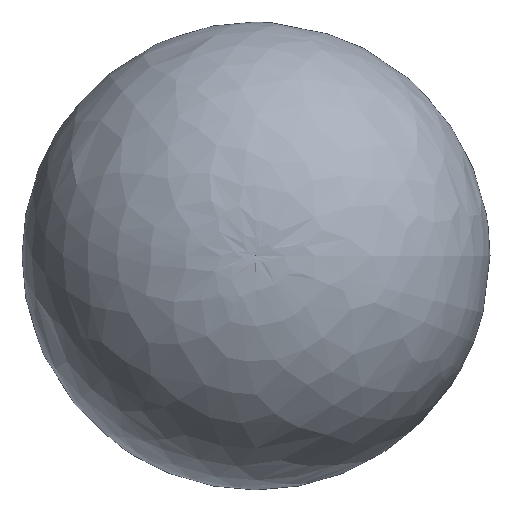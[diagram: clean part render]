
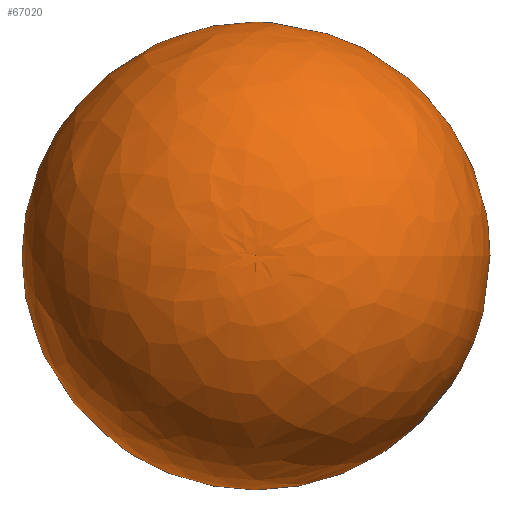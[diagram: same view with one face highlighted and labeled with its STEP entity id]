
A CAD part, top view. The second image highlights one B-rep face of the part: STEP entity #67020.
In plain terms, the highlighted free-form (B-spline) face has degree [2, 2] with [5, 9] control points.
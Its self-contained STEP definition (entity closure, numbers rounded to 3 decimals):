
#1044=(
BOUNDED_SURFACE()
B_SPLINE_SURFACE(2,2,((#193894,#193895,#193896,#193897,#193898,#193899,
#193900,#193901,#193902),(#193903,#193904,#193905,#193906,#193907,#193908,
#193909,#193910,#193911),(#193912,#193913,#193914,#193915,#193916,#193917,
#193918,#193919,#193920),(#193921,#193922,#193923,#193924,#193925,#193926,
#193927,#193928,#193929),(#193930,#193931,#193932,#193933,#193934,#193935,
#193936,#193937,#193938)),.UNSPECIFIED.,.F.,.T.,.F.)
B_SPLINE_SURFACE_WITH_KNOTS((3,2,3),(3,2,2,2,3),(-1.047,0.299,
1.645),(-3.142,-1.571,0.,1.571,
3.142),.UNSPECIFIED.)
GEOMETRIC_REPRESENTATION_ITEM()
RATIONAL_B_SPLINE_SURFACE(((1.,0.707,1.,0.707,1.,
0.707,1.,0.707,1.),(0.782,0.553,
0.782,0.553,0.782,0.553,
0.782,0.553,0.782),(1.,0.707,
1.,0.707,1.,0.707,1.,0.707,1.),(0.782,
0.553,0.782,0.553,0.782,
0.553,0.782,0.553,0.782),
(1.,0.707,1.,0.707,1.,0.707,1.,0.707,
1.)))
REPRESENTATION_ITEM('')
SURFACE()
);
#1114=(
BOUNDED_CURVE()
B_SPLINE_CURVE(2,(#193941,#193942,#193943,#193944,#193945),
 .UNSPECIFIED.,.F.,.F.)
B_SPLINE_CURVE_WITH_KNOTS((3,2,3),(-1.645,-0.299,
1.047),.UNSPECIFIED.)
CURVE()
GEOMETRIC_REPRESENTATION_ITEM()
RATIONAL_B_SPLINE_CURVE((1.,0.782,1.,0.782,1.))
REPRESENTATION_ITEM('')
);
#19146=FACE_OUTER_BOUND('',#24120,.T.);
#24120=EDGE_LOOP('',(#62525,#62526,#62527,#62528));
#27199=CIRCLE('',#74093,1357.5);
#27200=CIRCLE('',#74094,1357.5);
#33639=VERTEX_POINT('',#193939);
#33640=VERTEX_POINT('',#193940);
#33641=VERTEX_POINT('',#193946);
#43269=EDGE_CURVE('',#33639,#33640,#1114,.T.);
#43270=EDGE_CURVE('',#33640,#33641,#27199,.T.);
#43271=EDGE_CURVE('',#33641,#33640,#27200,.T.);
#62525=ORIENTED_EDGE('',*,*,#43269,.T.);
#62526=ORIENTED_EDGE('',*,*,#43270,.T.);
#62527=ORIENTED_EDGE('',*,*,#43271,.T.);
#62528=ORIENTED_EDGE('',*,*,#43269,.F.);
#67020=ADVANCED_FACE('',(#19146),#1044,.F.);
#74093=AXIS2_PLACEMENT_3D('',#193947,#91674,#91675);
#74094=AXIS2_PLACEMENT_3D('',#193948,#91676,#91677);
#91674=DIRECTION('center_axis',(0.,0.,1.));
#91675=DIRECTION('ref_axis',(-1.,0.,0.));
#91676=DIRECTION('center_axis',(0.,0.,1.));
#91677=DIRECTION('ref_axis',(-1.,0.,0.));
#193894=CARTESIAN_POINT('Ctrl Pts',(1357.5,0.,-1553.15));
#193895=CARTESIAN_POINT('Ctrl Pts',(1357.5,1357.5,-1553.15));
#193896=CARTESIAN_POINT('Ctrl Pts',(0.,1357.5,-1553.15));
#193897=CARTESIAN_POINT('Ctrl Pts',(-1357.5,1357.5,-1553.15));
#193898=CARTESIAN_POINT('Ctrl Pts',(-1357.5,0.,-1553.15));
#193899=CARTESIAN_POINT('Ctrl Pts',(-1357.5,-1357.5,-1553.15));
#193900=CARTESIAN_POINT('Ctrl Pts',(0.,-1357.5,-1553.15));
#193901=CARTESIAN_POINT('Ctrl Pts',(1357.5,-1357.5,-1553.15));
#193902=CARTESIAN_POINT('Ctrl Pts',(1357.5,0.,-1553.15));
#193903=CARTESIAN_POINT('Ctrl Pts',(2990.228,0.,-610.494));
#193904=CARTESIAN_POINT('Ctrl Pts',(2990.228,2990.228,-610.494));
#193905=CARTESIAN_POINT('Ctrl Pts',(0.,2990.228,
-610.494));
#193906=CARTESIAN_POINT('Ctrl Pts',(-2990.228,2990.228,
-610.494));
#193907=CARTESIAN_POINT('Ctrl Pts',(-2990.228,0.,-610.494));
#193908=CARTESIAN_POINT('Ctrl Pts',(-2990.228,-2990.228,
-610.494));
#193909=CARTESIAN_POINT('Ctrl Pts',(0.,-2990.228,
-610.494));
#193910=CARTESIAN_POINT('Ctrl Pts',(2990.228,-2990.228,
-610.494));
#193911=CARTESIAN_POINT('Ctrl Pts',(2990.228,0.,-610.494));
#193912=CARTESIAN_POINT('Ctrl Pts',(2435.186,0.,1191.264));
#193913=CARTESIAN_POINT('Ctrl Pts',(2435.186,2435.186,1191.264));
#193914=CARTESIAN_POINT('Ctrl Pts',(0.,2435.186,
1191.264));
#193915=CARTESIAN_POINT('Ctrl Pts',(-2435.186,2435.186,1191.264));
#193916=CARTESIAN_POINT('Ctrl Pts',(-2435.186,0.,1191.264));
#193917=CARTESIAN_POINT('Ctrl Pts',(-2435.186,-2435.186,1191.264));
#193918=CARTESIAN_POINT('Ctrl Pts',(0.,-2435.186,
1191.264));
#193919=CARTESIAN_POINT('Ctrl Pts',(2435.186,-2435.186,1191.264));
#193920=CARTESIAN_POINT('Ctrl Pts',(2435.186,0.,1191.264));
#193921=CARTESIAN_POINT('Ctrl Pts',(1880.144,0.,2993.022));
#193922=CARTESIAN_POINT('Ctrl Pts',(1880.144,1880.144,2993.022));
#193923=CARTESIAN_POINT('Ctrl Pts',(0.,1880.144,
2993.022));
#193924=CARTESIAN_POINT('Ctrl Pts',(-1880.144,1880.144,
2993.022));
#193925=CARTESIAN_POINT('Ctrl Pts',(-1880.144,0.,2993.022));
#193926=CARTESIAN_POINT('Ctrl Pts',(-1880.144,-1880.144,
2993.022));
#193927=CARTESIAN_POINT('Ctrl Pts',(0.,-1880.144,
2993.022));
#193928=CARTESIAN_POINT('Ctrl Pts',(1880.144,-1880.144,
2993.022));
#193929=CARTESIAN_POINT('Ctrl Pts',(1880.144,0.,2993.022));
#193930=CARTESIAN_POINT('Ctrl Pts',(0.,0.,2853.516));
#193931=CARTESIAN_POINT('Ctrl Pts',(0.,0.,
2853.516));
#193932=CARTESIAN_POINT('Ctrl Pts',(0.,0.,
2853.516));
#193933=CARTESIAN_POINT('Ctrl Pts',(0.,0.,
2853.516));
#193934=CARTESIAN_POINT('Ctrl Pts',(0.,0.,2853.516));
#193935=CARTESIAN_POINT('Ctrl Pts',(0.,0.,
2853.516));
#193936=CARTESIAN_POINT('Ctrl Pts',(0.,0.,
2853.516));
#193937=CARTESIAN_POINT('Ctrl Pts',(0.,0.,
2853.516));
#193938=CARTESIAN_POINT('Ctrl Pts',(0.,0.,2853.516));
#193939=CARTESIAN_POINT('',(0.,0.,2853.516));
#193940=CARTESIAN_POINT('',(1357.5,0.,-1553.15));
#193941=CARTESIAN_POINT('Ctrl Pts',(0.,0.,2853.516));
#193942=CARTESIAN_POINT('Ctrl Pts',(1880.144,0.,2993.022));
#193943=CARTESIAN_POINT('Ctrl Pts',(2435.186,0.,1191.264));
#193944=CARTESIAN_POINT('Ctrl Pts',(2990.228,0.,-610.494));
#193945=CARTESIAN_POINT('Ctrl Pts',(1357.5,0.,-1553.15));
#193946=CARTESIAN_POINT('',(-1357.5,0.,-1553.15));
#193947=CARTESIAN_POINT('Origin',(0.,0.,-1553.15));
#193948=CARTESIAN_POINT('Origin',(0.,0.,-1553.15));
